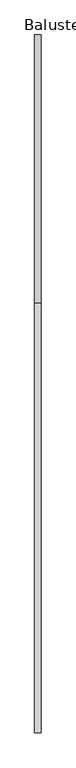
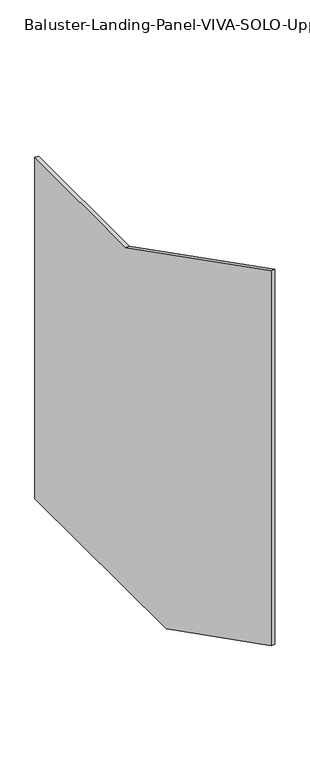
"""IFC4 building model written with IfcOpenShell, lengths in millimetres: railing geometry, Baluster-Landing-Panel-VIVA-SOLO-Upper : Standard_Glass."""

from ifc_helpers import new_model, si_unit, frame, origin, place, context, project, spatial, polyline, outline, extrude, source, transform, mapped, element, save


def baluster_landing_panel_viva_solo_upper_standard_glass_c8f52b50(model_context):
    return source(origin(), model_context, "Body", "SweptSolid", [
        extrude(outline(polyline([(629.6377199, 1109.345), (1021.9757429, 1109.345), (1021.9757429, 208.28), (454.029522, 208.28), (0.0, 439.42), (0.0, 1429.8846467), (629.6377199, 1109.345)])), frame((31.6077292, 0.0, 0.0), z_axis=(1.0, 0.0, 0.0), x_axis=(0.0, 1.0, 0.0)), (0.0, 0.0, 1.0), 9.525),
    ])


if __name__ == "__main__":
    model = new_model("IFC4")
    model_context = context("Model", 3, world=origin())
    ifc_project = project(units=[si_unit("LENGTHUNIT", "METRE", prefix="MILLI")], contexts=[model_context])
    site = spatial("IfcSite", under=ifc_project)
    building = spatial("IfcBuilding", under=site)
    placement = place(None, origin())
    baluster_landing_panel_viva_solo_upper_standard_glass_shape = baluster_landing_panel_viva_solo_upper_standard_glass_c8f52b50(model_context)
    element("IfcRailing", 1, ObjectType="Baluster-Landing-Panel-VIVA-SOLO-Upper : Standard_Glass", at=placement, inside=building, context=model_context, shape_type="MappedRepresentation", body=[
        mapped(baluster_landing_panel_viva_solo_upper_standard_glass_shape, transform((0.0, 0.0, 0.0), x_axis=(1.0, 0.0, 0.0), y_axis=(0.0, 1.0, 0.0), z_axis=(0.0, 0.0, 1.0))),
    ])
    save(model, "model.ifc")
